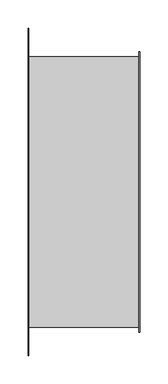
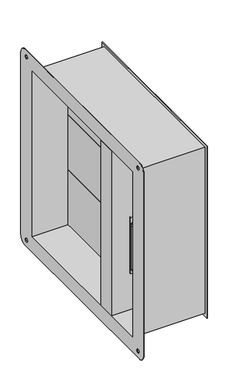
"""IFC4 building model written with IfcOpenShell, lengths in millimetres: damper geometry, СВ_КлапанПротивопожарныйЛифтовой_КДМ-2М-3-ЛС_НЗ_СтеновойПрямоугольный_СВОК : КДМ-2М_Привод FS."""

from ifc_helpers import new_model, si_unit, point, frame, frame_2d, origin, origin_2d, place, context, project, spatial, polyline, circle_curve, trimmed, segment, composite_curve, outline, extrude, source, transform, mapped, element, save
from ifc_brep_helpers import plane_surface, cylinder_surface, revolved_surface, advanced_brep


def damper_92731bf6(model_context):
    return source(origin(), model_context, "Body", "SolidModel", [
        extrude(outline(polyline([(0.6, -90.0), (-0.6, -90.0), (-0.6, 240.0), (0.6, 240.0), (0.6, -90.0)])), frame((0.0, 0.0, 80.0), z_axis=(0.0, 0.0, 1.0), x_axis=(1.0, 0.0, 0.0)), (0.0, 0.0, 1.0), 160.0),
        extrude(outline(polyline([(0.6, -90.0), (-0.6, -90.0), (-0.6, 240.0), (0.6, 240.0), (0.6, -90.0)])), frame((0.0, 0.0, -80.0), z_axis=(0.0, 0.0, 1.0), x_axis=(1.0, 0.0, 0.0)), (0.0, 0.0, 1.0), 160.0),
        extrude(outline(polyline([(0.6, -90.0), (-0.6, -90.0), (-0.6, 240.0), (0.6, 240.0), (0.6, -90.0)])), frame((0.0, 0.0, -240.0), z_axis=(0.0, 0.0, 1.0), x_axis=(1.0, 0.0, 0.0)), (0.0, 0.0, 1.0), 160.0),
        extrude(outline(polyline([(48.8298911, -140.0), (50.0298911, -140.0), (50.0298911, -145.0), (-50.0, -145.0), (-50.0, -140.0), (-48.8, -140.0), (-48.8, -143.8), (48.8298911, -143.8), (48.8298911, -140.0)])), frame((0.0, 0.0, -132.5), z_axis=(0.0, 0.0, 1.0), x_axis=(1.0, 0.0, 0.0)), (0.0, 0.0, 1.0), 162.5),
        extrude(outline(composite_curve([segment(polyline([(-116.1260091, 50.0298911), (8.1260091, 50.0298911)]), True, "CONTINUOUS"), segment(trimmed(circle_curve(frame_2d((8.1260091, 39.0)), 11.0298911), [point((8.1260091, 50.0298911))], [point((18.5819866, 42.5115572))], False, "CARTESIAN"), True, "CONTINUOUS"), segment(trimmed(circle_curve(frame_2d((-108.0, 0.0)), 133.5298911), [point((18.5819866, 42.5115572))], [point((18.5819866, -42.5115572))], False, "CARTESIAN"), True, "CONTINUOUS"), segment(trimmed(circle_curve(frame_2d((8.1260091, -39.0)), 11.0298911), [point((18.5819866, -42.5115572))], [point((8.1260091, -50.0298911))], False, "CARTESIAN"), True, "CONTINUOUS"), segment(polyline([(8.1260091, -50.0298911), (-116.1260091, -50.0298911)]), True, "CONTINUOUS"), segment(trimmed(circle_curve(frame_2d((-116.1260091, -39.0)), 11.0298911), [point((-116.1260091, -50.0298911))], [point((-126.5819866, -42.5115572))], False, "CARTESIAN"), True, "CONTINUOUS"), segment(trimmed(circle_curve(origin_2d(), 133.5298911), [point((-126.5819866, -42.5115572))], [point((-126.5819866, 42.5115572))], False, "CARTESIAN"), True, "CONTINUOUS"), segment(trimmed(circle_curve(frame_2d((-116.1260091, 39.0)), 11.0298911), [point((-126.5819866, 42.5115572))], [point((-116.1260091, 50.0298911))], False, "CARTESIAN"), True, "CONTINUOUS")], self_intersect=False), holes=[composite_curve([segment(trimmed(circle_curve(frame_2d((-108.0, 0.0)), 132.5), [point((17.6056834, -42.1836735))], [point((17.6056834, 42.1836735))], True, "CARTESIAN"), True, "CONTINUOUS"), segment(trimmed(circle_curve(frame_2d((8.1260091, 39.0)), 10.0), [point((17.6056834, 42.1836735))], [point((8.1260091, 49.0))], True, "CARTESIAN"), True, "CONTINUOUS"), segment(polyline([(8.1260091, 49.0), (-116.1260091, 49.0)]), True, "CONTINUOUS"), segment(trimmed(circle_curve(frame_2d((-116.1260091, 39.0)), 10.0), [point((-116.1260091, 49.0))], [point((-125.6056834, 42.1836735))], True, "CARTESIAN"), True, "CONTINUOUS"), segment(trimmed(circle_curve(origin_2d(), 132.5), [point((-125.6056834, 42.1836735))], [point((-125.6056834, -42.1836735))], True, "CARTESIAN"), True, "CONTINUOUS"), segment(trimmed(circle_curve(frame_2d((-116.1260091, -39.0)), 10.0), [point((-125.6056834, -42.1836735))], [point((-116.1260091, -49.0))], True, "CARTESIAN"), True, "CONTINUOUS"), segment(polyline([(-116.1260091, -49.0), (8.1260091, -49.0)]), True, "CONTINUOUS"), segment(trimmed(circle_curve(frame_2d((8.1260091, -39.0)), 10.0), [point((8.1260091, -49.0))], [point((17.6056834, -42.1836735))], True, "CARTESIAN"), True, "CONTINUOUS")], self_intersect=False)]), frame((0.0, -147.0, 0.0), z_axis=(0.0, 1.0, 0.0), x_axis=(0.0, 0.0, 1.0)), (0.0, 0.0, 1.0), 2.0),
        advanced_brep(
        [(42.1836735, -201.0, 17.6056834), (49.0, -201.0, 8.1260091), (49.0, -203.0, 8.1260091), (42.1836735, -203.0, 17.6056834), (42.5115572, -204.0, 18.5819866), (50.0298911, -204.0, 8.1260091), (50.0298911, -201.0, 8.1260091), (42.5115572, -201.0, 18.5819866), (41.5469388, -203.0, 15.7097485), (47.0, -203.0, 8.1260091), (47.0, -204.0, 8.1260091), (41.5469388, -204.0, 15.7097485), (-42.1836735, -201.0, 17.6056834), (-42.1836735, -203.0, 17.6056834), (-42.5115572, -204.0, 18.5819866), (-42.5115572, -201.0, 18.5819866), (-41.5469388, -203.0, 15.7097485), (-41.5469388, -204.0, 15.7097485), (-49.0, -201.0, 8.1260091), (-49.0, -203.0, 8.1260091), (-50.0298911, -204.0, 8.1260091), (-50.0298911, -201.0, 8.1260091), (-47.0, -203.0, 8.1260091), (-47.0, -204.0, 8.1260091), (-49.0, -203.0, -116.1260091), (-49.0, -201.0, -116.1260091), (-50.0298911, -201.0, -116.1260091), (-50.0298911, -204.0, -116.1260091), (-47.0, -204.0, -116.1260091), (-47.0, -203.0, -116.1260091), (-42.1836735, -201.0, -125.6056834), (-42.1836735, -203.0, -125.6056834), (-42.5115572, -204.0, -126.5819866), (-42.5115572, -201.0, -126.5819866), (-41.5469388, -203.0, -123.7097485), (-41.5469388, -204.0, -123.7097485), (42.1836735, -201.0, -125.6056834), (42.1836735, -203.0, -125.6056834), (42.5115572, -204.0, -126.5819866), (42.5115572, -201.0, -126.5819866), (41.5469388, -203.0, -123.7097485), (41.5469388, -204.0, -123.7097485), (49.0, -201.0, -116.1260091), (49.0, -203.0, -116.1260091), (50.0298911, -204.0, -116.1260091), (50.0298911, -201.0, -116.1260091), (47.0, -203.0, -116.1260091), (47.0, -204.0, -116.1260091)],
        [
            (0, 1, circle_curve(frame((39.0, -201.0, 8.1260091), z_axis=(0.0, 1.0, 0.0), x_axis=(1.0, 0.0, 0.0)), 10.0)),
            (1, 2),
            (2, 3, circle_curve(frame((39.0, -203.0, 8.1260091), z_axis=(0.0, -1.0, 0.0), x_axis=(1.0, 0.0, 0.0)), 10.0)),
            (3, 0),
            (4, 5, circle_curve(frame((39.0, -204.0, 8.1260091), z_axis=(0.0, 1.0, 0.0), x_axis=(1.0, 0.0, 0.0)), 11.0298911)),
            (5, 6),
            (6, 7, circle_curve(frame((39.0, -201.0, 8.1260091), z_axis=(0.0, -1.0, 0.0), x_axis=(1.0, 0.0, 0.0)), 11.0298911)),
            (7, 4),
            (8, 9, circle_curve(frame((39.0, -203.0, 8.1260091), z_axis=(0.0, 1.0, 0.0), x_axis=(1.0, 0.0, 0.0)), 8.0)),
            (9, 10),
            (10, 11, circle_curve(frame((39.0, -204.0, 8.1260091), z_axis=(0.0, -1.0, 0.0), x_axis=(1.0, 0.0, 0.0)), 8.0)),
            (11, 8),
            (12, 0, circle_curve(frame((0.0, -201.0, -108.0), z_axis=(0.0, 1.0, 0.0), x_axis=(0.31836734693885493, 0.0, 0.9479674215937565)), 132.5)),
            (3, 13, circle_curve(frame((0.0, -203.0, -108.0), z_axis=(0.0, -1.0, 0.0), x_axis=(0.31836734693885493, 0.0, 0.9479674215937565)), 132.5)),
            (13, 12),
            (14, 4, circle_curve(frame((0.0, -204.0, -108.0), z_axis=(0.0, 1.0, 0.0), x_axis=(0.31836734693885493, 0.0, 0.9479674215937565)), 133.5298911)),
            (7, 15, circle_curve(frame((0.0, -201.0, -108.0), z_axis=(0.0, -1.0, 0.0), x_axis=(0.31836734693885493, 0.0, 0.9479674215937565)), 133.5298911)),
            (15, 14),
            (16, 8, circle_curve(frame((0.0, -203.0, -108.0), z_axis=(0.0, 1.0, 0.0), x_axis=(0.31836734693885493, 0.0, 0.9479674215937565)), 130.5)),
            (11, 17, circle_curve(frame((0.0, -204.0, -108.0), z_axis=(0.0, -1.0, 0.0), x_axis=(0.31836734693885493, 0.0, 0.9479674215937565)), 130.5)),
            (17, 16),
            (18, 12, circle_curve(frame((-39.0, -201.0, 8.1260091), z_axis=(0.0, 1.0, 0.0), x_axis=(-0.31836734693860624, 0.0, 0.94796742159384)), 10.0)),
            (13, 19, circle_curve(frame((-39.0, -203.0, 8.1260091), z_axis=(0.0, -1.0, 0.0), x_axis=(-0.31836734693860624, 0.0, 0.94796742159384)), 10.0)),
            (19, 18),
            (20, 14, circle_curve(frame((-39.0, -204.0, 8.1260091), z_axis=(0.0, 1.0, 0.0), x_axis=(-0.31836734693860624, 0.0, 0.94796742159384)), 11.0298911)),
            (15, 21, circle_curve(frame((-39.0, -201.0, 8.1260091), z_axis=(0.0, -1.0, 0.0), x_axis=(-0.31836734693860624, 0.0, 0.94796742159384)), 11.0298911)),
            (21, 20),
            (22, 16, circle_curve(frame((-39.0, -203.0, 8.1260091), z_axis=(0.0, 1.0, 0.0), x_axis=(-0.31836734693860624, 0.0, 0.94796742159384)), 8.0)),
            (17, 23, circle_curve(frame((-39.0, -204.0, 8.1260091), z_axis=(0.0, -1.0, 0.0), x_axis=(-0.31836734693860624, 0.0, 0.94796742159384)), 8.0)),
            (23, 22),
            (19, 24),
            (24, 25),
            (25, 18),
            (21, 26),
            (26, 27),
            (27, 20),
            (23, 28),
            (28, 29),
            (29, 22),
            (30, 25, circle_curve(frame((-39.0, -201.0, -116.1260091), z_axis=(0.0, 1.0, 0.0), x_axis=(-1.0, 0.0, 0.0)), 10.0)),
            (24, 31, circle_curve(frame((-39.0, -203.0, -116.1260091), z_axis=(0.0, -1.0, 0.0), x_axis=(-1.0, 0.0, 0.0)), 10.0)),
            (31, 30),
            (32, 27, circle_curve(frame((-39.0, -204.0, -116.1260091), z_axis=(0.0, 1.0, 0.0), x_axis=(-1.0, 0.0, 0.0)), 11.0298911)),
            (26, 33, circle_curve(frame((-39.0, -201.0, -116.1260091), z_axis=(0.0, -1.0, 0.0), x_axis=(-1.0, 0.0, 0.0)), 11.0298911)),
            (33, 32),
            (34, 29, circle_curve(frame((-39.0, -203.0, -116.1260091), z_axis=(0.0, 1.0, 0.0), x_axis=(-1.0, 0.0, 0.0)), 8.0)),
            (28, 35, circle_curve(frame((-39.0, -204.0, -116.1260091), z_axis=(0.0, -1.0, 0.0), x_axis=(-1.0, 0.0, 0.0)), 8.0)),
            (35, 34),
            (36, 30, circle_curve(frame((0.0, -201.0, 0.0), z_axis=(0.0, 1.0, 0.0), x_axis=(-0.3183673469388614, 0.0, -0.9479674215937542)), 132.5)),
            (31, 37, circle_curve(frame((0.0, -203.0, 0.0), z_axis=(0.0, -1.0, 0.0), x_axis=(-0.3183673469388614, 0.0, -0.9479674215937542)), 132.5)),
            (37, 36),
            (38, 32, circle_curve(frame((0.0, -204.0, 0.0), z_axis=(0.0, 1.0, 0.0), x_axis=(-0.3183673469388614, 0.0, -0.9479674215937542)), 133.5298911)),
            (33, 39, circle_curve(frame((0.0, -201.0, 0.0), z_axis=(0.0, -1.0, 0.0), x_axis=(-0.3183673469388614, 0.0, -0.9479674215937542)), 133.5298911)),
            (39, 38),
            (40, 34, circle_curve(frame((0.0, -203.0, 0.0), z_axis=(0.0, 1.0, 0.0), x_axis=(-0.3183673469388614, 0.0, -0.9479674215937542)), 130.5)),
            (35, 41, circle_curve(frame((0.0, -204.0, 0.0), z_axis=(0.0, -1.0, 0.0), x_axis=(-0.3183673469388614, 0.0, -0.9479674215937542)), 130.5)),
            (41, 40),
            (42, 36, circle_curve(frame((39.0, -201.0, -116.1260091), z_axis=(0.0, 1.0, 0.0), x_axis=(0.3183673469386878, 0.0, -0.9479674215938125)), 10.0)),
            (37, 43, circle_curve(frame((39.0, -203.0, -116.1260091), z_axis=(0.0, -1.0, 0.0), x_axis=(0.3183673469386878, 0.0, -0.9479674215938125)), 10.0)),
            (43, 42),
            (44, 38, circle_curve(frame((39.0, -204.0, -116.1260091), z_axis=(0.0, 1.0, 0.0), x_axis=(0.3183673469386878, 0.0, -0.9479674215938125)), 11.0298911)),
            (39, 45, circle_curve(frame((39.0, -201.0, -116.1260091), z_axis=(0.0, -1.0, 0.0), x_axis=(0.3183673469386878, 0.0, -0.9479674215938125)), 11.0298911)),
            (45, 44),
            (46, 40, circle_curve(frame((39.0, -203.0, -116.1260091), z_axis=(0.0, 1.0, 0.0), x_axis=(0.3183673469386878, 0.0, -0.9479674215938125)), 8.0)),
            (41, 47, circle_curve(frame((39.0, -204.0, -116.1260091), z_axis=(0.0, -1.0, 0.0), x_axis=(0.3183673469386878, 0.0, -0.9479674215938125)), 8.0)),
            (47, 46),
            (2, 43),
            (46, 9),
            (1, 42),
            (6, 45),
            (5, 44),
            (10, 47),
        ],
        [
            revolved_surface(polyline([(49.0, -203.0, 8.1260091), (49.0, -201.0, 8.1260091)]), (39.0, -203.0, 8.1260091), (0.0, -1.0, 0.0)),
            cylinder_surface(frame((39.0, -203.0, 8.1260091), z_axis=(0.0, -1.0, 0.0), x_axis=(1.0, 0.0, 0.0)), 11.0298911),
            revolved_surface(polyline([(47.0, -204.0, 8.1260091), (47.0, -203.0, 8.1260091)]), (39.0, -203.0, 8.1260091), (0.0, -1.0, 0.0)),
            revolved_surface(polyline([(42.18367346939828, -203.0, 17.605683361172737), (42.18367346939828, -201.0, 17.605683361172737)]), (0.0, -203.0, -108.0), (0.0, -1.0, 0.0)),
            cylinder_surface(frame((0.0, -203.0, -108.0), z_axis=(0.0, -1.0, 0.0), x_axis=(0.31836734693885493, 0.0, 0.9479674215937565)), 133.5298911),
            revolved_surface(polyline([(41.546938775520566, -204.0, 15.709748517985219), (41.546938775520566, -203.0, 15.709748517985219)]), (0.0, -203.0, -108.0), (0.0, -1.0, 0.0)),
            revolved_surface(polyline([(-42.183673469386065, -203.0, 17.6056833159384), (-42.183673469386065, -201.0, 17.6056833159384)]), (-39.0, -203.0, 8.1260091), (0.0, -1.0, 0.0)),
            cylinder_surface(frame((-39.0, -203.0, 8.1260091), z_axis=(0.0, -1.0, 0.0), x_axis=(-0.31836734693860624, 0.0, 0.94796742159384)), 11.0298911),
            revolved_surface(polyline([(-41.54693877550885, -204.0, 15.709748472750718), (-41.54693877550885, -203.0, 15.709748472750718)]), (-39.0, -203.0, 8.1260091), (0.0, -1.0, 0.0)),
            plane_surface(frame((-49.0, -203.0, 8.1260091), z_axis=(1.0, 0.0, 0.0), x_axis=(0.0, 0.0, -1.0))),
            plane_surface(frame((-50.0298911, -201.0, 8.1260091), z_axis=(-1.0, 0.0, 0.0), x_axis=(0.0, 0.0, -1.0))),
            plane_surface(frame((-47.0, -204.0, 8.1260091), z_axis=(1.0, 0.0, 0.0), x_axis=(0.0, 0.0, -1.0))),
            revolved_surface(polyline([(-49.0, -203.0, -116.1260091), (-49.0, -201.0, -116.1260091)]), (-39.0, -203.0, -116.1260091), (0.0, -1.0, 0.0)),
            cylinder_surface(frame((-39.0, -203.0, -116.1260091), z_axis=(0.0, -1.0, 0.0), x_axis=(-1.0, 0.0, 0.0)), 11.0298911),
            revolved_surface(polyline([(-47.0, -204.0, -116.1260091), (-47.0, -203.0, -116.1260091)]), (-39.0, -203.0, -116.1260091), (0.0, -1.0, 0.0)),
            revolved_surface(polyline([(-42.18367346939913, -203.0, -125.60568336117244), (-42.18367346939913, -201.0, -125.60568336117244)]), (0.0, -203.0, 0.0), (0.0, -1.0, 0.0)),
            cylinder_surface(frame((0.0, -203.0, 0.0), z_axis=(0.0, -1.0, 0.0), x_axis=(-0.3183673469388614, 0.0, -0.9479674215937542)), 133.5298911),
            revolved_surface(polyline([(-41.54693877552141, -204.0, -123.70974851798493), (-41.54693877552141, -203.0, -123.70974851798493)]), (0.0, -203.0, 0.0), (0.0, -1.0, 0.0)),
            revolved_surface(polyline([(42.183673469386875, -203.0, -125.60568331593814), (42.183673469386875, -201.0, -125.60568331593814)]), (39.0, -203.0, -116.1260091), (0.0, -1.0, 0.0)),
            cylinder_surface(frame((39.0, -203.0, -116.1260091), z_axis=(0.0, -1.0, 0.0), x_axis=(0.3183673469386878, 0.0, -0.9479674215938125)), 11.0298911),
            revolved_surface(polyline([(41.5469387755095, -204.0, -123.7097484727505), (41.5469387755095, -203.0, -123.7097484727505)]), (39.0, -203.0, -116.1260091), (0.0, -1.0, 0.0)),
            plane_surface(frame((47.0, -203.0, -116.1260091), z_axis=(0.0, 1.0, 0.0), x_axis=(0.0, 0.0, 1.0))),
            plane_surface(frame((49.0, -203.0, -116.1260091), z_axis=(-1.0, 0.0, 0.0), x_axis=(0.0, 0.0, 1.0))),
            plane_surface(frame((49.0, -201.0, -116.1260091), z_axis=(0.0, 1.0, 0.0), x_axis=(0.0, 0.0, 1.0))),
            plane_surface(frame((50.0298911, -201.0, -116.1260091), z_axis=(1.0, 0.0, 0.0), x_axis=(0.0, 0.0, 1.0))),
            plane_surface(frame((50.0298911, -204.0, -116.1260091), z_axis=(0.0, -1.0, 0.0), x_axis=(0.0, 0.0, 1.0))),
            plane_surface(frame((47.0, -204.0, -116.1260091), z_axis=(-1.0, 0.0, 0.0), x_axis=(0.0, 0.0, 1.0))),
        ],
        [
            (0, [[1, 2, 3, 4]]),
            (1, [[5, 6, 7, 8]]),
            (2, [[9, 10, 11, 12]]),
            (3, [[13, -4, 14, 15]]),
            (4, [[16, -8, 17, 18]]),
            (5, [[19, -12, 20, 21]]),
            (6, [[22, -15, 23, 24]]),
            (7, [[25, -18, 26, 27]]),
            (8, [[28, -21, 29, 30]]),
            (9, [[-24, 31, 32, 33]]),
            (10, [[-27, 34, 35, 36]]),
            (11, [[-30, 37, 38, 39]]),
            (12, [[40, -32, 41, 42]]),
            (13, [[43, -35, 44, 45]]),
            (14, [[46, -38, 47, 48]]),
            (15, [[49, -42, 50, 51]]),
            (16, [[52, -45, 53, 54]]),
            (17, [[55, -48, 56, 57]]),
            (18, [[58, -51, 59, 60]]),
            (19, [[61, -54, 62, 63]]),
            (20, [[64, -57, 65, 66]]),
            (21, [[67, -59, -50, -41, -31, -23, -14, -3], [-55, -64, 68, -9, -19, -28, -39, -46]]),
            (22, [[-60, -67, -2, 69]]),
            (23, [[70, -62, -53, -44, -34, -26, -17, -7], [-49, -58, -69, -1, -13, -22, -33, -40]]),
            (24, [[-63, -70, -6, 71]]),
            (25, [[-52, -61, -71, -5, -16, -25, -36, -43], [72, -65, -56, -47, -37, -29, -20, -11]]),
            (26, [[-66, -72, -10, -68]]),
        ],
    ),
        advanced_brep(
        [(15.0, -174.0, -132.5), (35.0, -174.0, -132.5), (36.9771465, -174.0, -132.5), (13.0228535, -174.0, -132.5), (36.9771465, -174.0, -135.4915282), (13.0228535, -174.0, -135.4915282), (32.9771465, -174.0, -135.4915282), (17.0228535, -174.0, -135.4915282), (32.9771465, -174.0, -137.4754985), (17.0228535, -174.0, -137.4754985), (37.9771465, -174.0, -137.4754985), (12.0228535, -174.0, -137.4754985), (37.9771465, -174.0, -147.4754985), (12.0228535, -174.0, -147.4754985), (34.4416126, -174.0, -151.0110324), (15.5583874, -174.0, -151.0110324), (25.0, -174.0, -151.0110324), (25.0, -174.0, -120.900028), (35.0, -174.0, -120.900028), (15.0, -174.0, -120.900028)],
        [
            (0, 1, circle_curve(frame((25.0, -174.0, -132.5), z_axis=(0.0, 0.0, -1.0), x_axis=(1.0, 0.0, 0.0)), 10.0)),
            (1, 2),
            (2, 3, circle_curve(frame((25.0, -174.0, -132.5), z_axis=(0.0, 0.0, 1.0), x_axis=(1.0, 0.0, 0.0)), 11.9771465)),
            (3, 0),
            (1, 0, circle_curve(frame((25.0, -174.0, -132.5), z_axis=(0.0, 0.0, -1.0), x_axis=(1.0, 0.0, 0.0)), 10.0)),
            (3, 2, circle_curve(frame((25.0, -174.0, -132.5), z_axis=(0.0, 0.0, 1.0), x_axis=(1.0, 0.0, 0.0)), 11.9771465)),
            (2, 4),
            (4, 5, circle_curve(frame((25.0, -174.0, -135.4915282), z_axis=(0.0, 0.0, 1.0), x_axis=(1.0, 0.0, 0.0)), 11.9771465)),
            (5, 3),
            (5, 4, circle_curve(frame((25.0, -174.0, -135.4915282), z_axis=(0.0, 0.0, 1.0), x_axis=(1.0, 0.0, 0.0)), 11.9771465)),
            (4, 6),
            (6, 7, circle_curve(frame((25.0, -174.0, -135.4915282), z_axis=(0.0, 0.0, 1.0), x_axis=(1.0, 0.0, 0.0)), 7.9771465)),
            (7, 5),
            (7, 6, circle_curve(frame((25.0, -174.0, -135.4915282), z_axis=(0.0, 0.0, 1.0), x_axis=(1.0, 0.0, 0.0)), 7.9771465)),
            (6, 8),
            (8, 9, circle_curve(frame((25.0, -174.0, -137.4754985), z_axis=(0.0, 0.0, 1.0), x_axis=(1.0, 0.0, 0.0)), 7.9771465)),
            (9, 7),
            (9, 8, circle_curve(frame((25.0, -174.0, -137.4754985), z_axis=(0.0, 0.0, 1.0), x_axis=(1.0, 0.0, 0.0)), 7.9771465)),
            (8, 10),
            (10, 11, circle_curve(frame((25.0, -174.0, -137.4754985), z_axis=(0.0, 0.0, 1.0), x_axis=(1.0, 0.0, 0.0)), 12.9771465)),
            (11, 9),
            (11, 10, circle_curve(frame((25.0, -174.0, -137.4754985), z_axis=(0.0, 0.0, 1.0), x_axis=(1.0, 0.0, 0.0)), 12.9771465)),
            (10, 12),
            (12, 13, circle_curve(frame((25.0, -174.0, -147.4754985), z_axis=(0.0, 0.0, 1.0), x_axis=(1.0, 0.0, 0.0)), 12.9771465)),
            (13, 11),
            (13, 12, circle_curve(frame((25.0, -174.0, -147.4754985), z_axis=(0.0, 0.0, 1.0), x_axis=(1.0, 0.0, 0.0)), 12.9771465)),
            (12, 14),
            (14, 15, circle_curve(frame((25.0, -174.0, -151.0110324), z_axis=(0.0, 0.0, 1.0), x_axis=(1.0, 0.0, 0.0)), 9.4416126)),
            (15, 13),
            (15, 14, circle_curve(frame((25.0, -174.0, -151.0110324), z_axis=(0.0, 0.0, 1.0), x_axis=(1.0, 0.0, 0.0)), 9.4416126)),
            (14, 16),
            (16, 15),
            (17, 18),
            (18, 19, circle_curve(frame((25.0, -174.0, -120.900028), z_axis=(0.0, 0.0, 1.0), x_axis=(1.0, 0.0, 0.0)), 10.0)),
            (19, 17),
            (19, 18, circle_curve(frame((25.0, -174.0, -120.900028), z_axis=(0.0, 0.0, 1.0), x_axis=(1.0, 0.0, 0.0)), 10.0)),
            (18, 1),
            (0, 19),
        ],
        [
            plane_surface(frame((25.0, -174.0, -132.5), z_axis=(0.0, 0.0, 1.0), x_axis=(1.0, 0.0, 0.0))),
            cylinder_surface(frame((25.0, -174.0, -461.314844), z_axis=(0.0, 0.0, 1.0), x_axis=(1.0, 0.0, 0.0)), 11.9771465),
            plane_surface(frame((25.0, -174.0, -135.4915282), z_axis=(0.0, 0.0, -1.0), x_axis=(1.0, 0.0, 0.0))),
            cylinder_surface(frame((25.0, -174.0, -461.314844), z_axis=(0.0, 0.0, 1.0), x_axis=(1.0, 0.0, 0.0)), 7.9771465),
            plane_surface(frame((25.0, -174.0, -137.4754985), z_axis=(0.0, 0.0, 1.0), x_axis=(1.0, 0.0, 0.0))),
            cylinder_surface(frame((25.0, -174.0, -461.314844), z_axis=(0.0, 0.0, 1.0), x_axis=(1.0, 0.0, 0.0)), 12.9771465),
            revolved_surface(polyline([(34.4416126, -174.0, -151.0110324), (37.9771465, -174.0, -147.4754985)]), (25.0, -174.0, -461.314844), (0.0, 0.0, 1.0)),
            plane_surface(frame((25.0, -174.0, -151.0110324), z_axis=(0.0, 0.0, -1.0), x_axis=(1.0, 0.0, 0.0))),
            plane_surface(frame((25.0, -174.0, -120.900028), z_axis=(0.0, 0.0, 1.0), x_axis=(1.0, 0.0, 0.0))),
            cylinder_surface(frame((25.0, -174.0, -461.314844), z_axis=(0.0, 0.0, 1.0), x_axis=(1.0, 0.0, 0.0)), 10.0),
        ],
        [
            (0, [[1, 2, 3, 4]]),
            (0, [[5, -4, 6, -2]]),
            (1, [[-3, 7, 8, 9]]),
            (1, [[-6, -9, 10, -7]]),
            (2, [[-8, 11, 12, 13]]),
            (2, [[-10, -13, 14, -11]]),
            (3, [[-12, 15, 16, 17]]),
            (3, [[-14, -17, 18, -15]]),
            (4, [[-16, 19, 20, 21]]),
            (4, [[-18, -21, 22, -19]]),
            (5, [[-20, 23, 24, 25]]),
            (5, [[-22, -25, 26, -23]]),
            (6, [[-24, 27, 28, 29]]),
            (6, [[-26, -29, 30, -27]]),
            (7, [[-28, 31, 32]]),
            (7, [[-30, -32, -31]]),
            (8, [[33, 34, 35]]),
            (8, [[-35, 36, -33]]),
            (9, [[-34, 37, -1, 38]]),
            (9, [[-36, -38, -5, -37]]),
        ],
    ),
        advanced_brep(
        [(-13.0228535, -174.0, -132.5), (-36.9771465, -174.0, -132.5), (-35.0, -174.0, -132.5), (-15.0, -174.0, -132.5), (-13.0228535, -174.0, -135.4915282), (-36.9771465, -174.0, -135.4915282), (-17.0228535, -174.0, -135.4915282), (-32.9771465, -174.0, -135.4915282), (-17.0228535, -174.0, -137.4754985), (-32.9771465, -174.0, -137.4754985), (-12.0228535, -174.0, -137.4754985), (-37.9771465, -174.0, -137.4754985), (-12.0228535, -174.0, -147.4754985), (-37.9771465, -174.0, -147.4754985), (-15.5583874, -174.0, -151.0110324), (-34.4416126, -174.0, -151.0110324), (-25.0, -174.0, -151.0110324), (-15.0, -174.0, -120.900028), (-35.0, -174.0, -120.900028), (-25.0, -174.0, -120.900028)],
        [
            (0, 1, circle_curve(frame((-25.0, -174.0, -132.5), z_axis=(0.0, 0.0, 1.0), x_axis=(-1.0, 0.0, 0.0)), 11.9771465)),
            (1, 2),
            (2, 3, circle_curve(frame((-25.0, -174.0, -132.5), z_axis=(0.0, 0.0, -1.0), x_axis=(-1.0, 0.0, 0.0)), 10.0)),
            (3, 0),
            (1, 0, circle_curve(frame((-25.0, -174.0, -132.5), z_axis=(0.0, 0.0, 1.0), x_axis=(-1.0, 0.0, 0.0)), 11.9771465)),
            (3, 2, circle_curve(frame((-25.0, -174.0, -132.5), z_axis=(0.0, 0.0, -1.0), x_axis=(-1.0, 0.0, 0.0)), 10.0)),
            (4, 5, circle_curve(frame((-25.0, -174.0, -135.4915282), z_axis=(0.0, 0.0, 1.0), x_axis=(-1.0, 0.0, 0.0)), 11.9771465)),
            (5, 1),
            (0, 4),
            (5, 4, circle_curve(frame((-25.0, -174.0, -135.4915282), z_axis=(0.0, 0.0, 1.0), x_axis=(-1.0, 0.0, 0.0)), 11.9771465)),
            (6, 7, circle_curve(frame((-25.0, -174.0, -135.4915282), z_axis=(0.0, 0.0, 1.0), x_axis=(-1.0, 0.0, 0.0)), 7.9771465)),
            (7, 5),
            (4, 6),
            (7, 6, circle_curve(frame((-25.0, -174.0, -135.4915282), z_axis=(0.0, 0.0, 1.0), x_axis=(-1.0, 0.0, 0.0)), 7.9771465)),
            (8, 9, circle_curve(frame((-25.0, -174.0, -137.4754985), z_axis=(0.0, 0.0, 1.0), x_axis=(-1.0, 0.0, 0.0)), 7.9771465)),
            (9, 7),
            (6, 8),
            (9, 8, circle_curve(frame((-25.0, -174.0, -137.4754985), z_axis=(0.0, 0.0, 1.0), x_axis=(-1.0, 0.0, 0.0)), 7.9771465)),
            (10, 11, circle_curve(frame((-25.0, -174.0, -137.4754985), z_axis=(0.0, 0.0, 1.0), x_axis=(-1.0, 0.0, 0.0)), 12.9771465)),
            (11, 9),
            (8, 10),
            (11, 10, circle_curve(frame((-25.0, -174.0, -137.4754985), z_axis=(0.0, 0.0, 1.0), x_axis=(-1.0, 0.0, 0.0)), 12.9771465)),
            (12, 13, circle_curve(frame((-25.0, -174.0, -147.4754985), z_axis=(0.0, 0.0, 1.0), x_axis=(-1.0, 0.0, 0.0)), 12.9771465)),
            (13, 11),
            (10, 12),
            (13, 12, circle_curve(frame((-25.0, -174.0, -147.4754985), z_axis=(0.0, 0.0, 1.0), x_axis=(-1.0, 0.0, 0.0)), 12.9771465)),
            (14, 15, circle_curve(frame((-25.0, -174.0, -151.0110324), z_axis=(0.0, 0.0, 1.0), x_axis=(-1.0, 0.0, 0.0)), 9.4416126)),
            (15, 13),
            (12, 14),
            (15, 14, circle_curve(frame((-25.0, -174.0, -151.0110324), z_axis=(0.0, 0.0, 1.0), x_axis=(-1.0, 0.0, 0.0)), 9.4416126)),
            (16, 15),
            (14, 16),
            (17, 18, circle_curve(frame((-25.0, -174.0, -120.900028), z_axis=(0.0, 0.0, 1.0), x_axis=(-1.0, 0.0, 0.0)), 10.0)),
            (18, 19),
            (19, 17),
            (18, 17, circle_curve(frame((-25.0, -174.0, -120.900028), z_axis=(0.0, 0.0, 1.0), x_axis=(-1.0, 0.0, 0.0)), 10.0)),
            (2, 18),
            (17, 3),
        ],
        [
            plane_surface(frame((-25.0, -174.0, -132.5), z_axis=(0.0, 0.0, 1.0), x_axis=(-1.0, 0.0, 0.0))),
            cylinder_surface(frame((-25.0, -174.0, -461.314844), z_axis=(0.0, 0.0, -1.0), x_axis=(-1.0, 0.0, 0.0)), 11.9771465),
            plane_surface(frame((-25.0, -174.0, -135.4915282), z_axis=(0.0, 0.0, -1.0), x_axis=(-1.0, 0.0, 0.0))),
            cylinder_surface(frame((-25.0, -174.0, -461.314844), z_axis=(0.0, 0.0, -1.0), x_axis=(-1.0, 0.0, 0.0)), 7.9771465),
            plane_surface(frame((-25.0, -174.0, -137.4754985), z_axis=(0.0, 0.0, 1.0), x_axis=(-1.0, 0.0, 0.0))),
            cylinder_surface(frame((-25.0, -174.0, -461.314844), z_axis=(0.0, 0.0, -1.0), x_axis=(-1.0, 0.0, 0.0)), 12.9771465),
            revolved_surface(polyline([(-37.9771465, -174.0, -147.4754985), (-34.4416126, -174.0, -151.0110324)]), (-25.0, -174.0, -461.314844), (0.0, 0.0, -1.0)),
            plane_surface(frame((-25.0, -174.0, -151.0110324), z_axis=(0.0, 0.0, -1.0), x_axis=(-1.0, 0.0, 0.0))),
            plane_surface(frame((-25.0, -174.0, -120.900028), z_axis=(0.0, 0.0, 1.0), x_axis=(-1.0, 0.0, 0.0))),
            cylinder_surface(frame((-25.0, -174.0, -461.314844), z_axis=(0.0, 0.0, -1.0), x_axis=(-1.0, 0.0, 0.0)), 10.0),
        ],
        [
            (0, [[1, 2, 3, 4]]),
            (0, [[5, -4, 6, -2]]),
            (1, [[7, 8, -1, 9]]),
            (1, [[10, -9, -5, -8]]),
            (2, [[11, 12, -7, 13]]),
            (2, [[14, -13, -10, -12]]),
            (3, [[15, 16, -11, 17]]),
            (3, [[18, -17, -14, -16]]),
            (4, [[19, 20, -15, 21]]),
            (4, [[22, -21, -18, -20]]),
            (5, [[23, 24, -19, 25]]),
            (5, [[26, -25, -22, -24]]),
            (6, [[27, 28, -23, 29]]),
            (6, [[30, -29, -26, -28]]),
            (7, [[31, -27, 32]]),
            (7, [[-32, -30, -31]]),
            (8, [[33, 34, 35]]),
            (8, [[36, -35, -34]]),
            (9, [[-3, 37, -33, 38]]),
            (9, [[-6, -38, -36, -37]]),
        ],
    ),
        extrude(outline(polyline([(-5.1832695, -2.9925621), (-5.1832695, 2.9925621), (0.0, 5.9851241), (5.1832695, 2.9925621), (5.1832695, -2.9925621), (0.0, -5.9851241), (-5.1832695, -2.9925621)])), frame((0.0, -203.0, 0.0), z_axis=(0.0, 1.0, 0.0), x_axis=(0.0, 0.0, 1.0)), (0.0, 0.0, 1.0), 63.0),
        advanced_brep(
        [(42.1836735, -203.0, -125.6056834), (49.0, -203.0, -116.1260091), (49.0, -203.0, 8.1260091), (42.1836735, -203.0, 17.6056834), (-42.1836735, -203.0, 17.6056834), (-49.0, -203.0, 8.1260091), (-49.0, -203.0, -116.1260091), (-42.1836735, -203.0, -125.6056834), (0.0, -203.0, -19.0), (0.0, -203.0, 19.0), (0.0, -203.0, -18.0), (0.0, -203.0, 18.0), (0.0, -203.0, -15.0), (0.0, -203.0, 15.0), (0.0, -203.0, -14.0), (0.0, -203.0, 14.0), (5.9954463, -203.0, 5.9954463), (5.9954463, -203.0, 2.4898351), (8.4852814, -203.0, 0.0), (5.9954463, -203.0, -2.4898351), (5.9954463, -203.0, -5.9954463), (2.4898351, -203.0, -5.9954463), (0.0, -203.0, -8.4852814), (-2.4898351, -203.0, -5.9954463), (-5.9954463, -203.0, -5.9954463), (-5.9954463, -203.0, -2.4898351), (-8.4852814, -203.0, 0.0), (-5.9954463, -203.0, 2.4898351), (-5.9954463, -203.0, 5.9954463), (-2.4898351, -203.0, 5.9954463), (0.0, -203.0, 8.4852814), (2.4898351, -203.0, 5.9954463), (42.1836735, -145.0, -125.6056834), (-42.1836735, -145.0, -125.6056834), (-49.0, -145.0, -116.1260091), (-49.0, -145.0, 8.1260091), (-42.1836735, -145.0, 17.6056834), (42.1836735, -145.0, 17.6056834), (49.0, -145.0, 8.1260091), (49.0, -145.0, -116.1260091), (0.0, -198.0, 19.0), (0.0, -198.0, -19.0), (0.0, -198.0, 18.0), (0.0, -198.0, -18.0), (0.0, -198.0, 15.0), (0.0, -198.0, -15.0), (0.0, -198.0, 14.0), (0.0, -198.0, -14.0), (5.9954463, -198.0, 2.4898351), (5.9954463, -198.0, 5.9954463), (2.4898351, -198.0, 5.9954463), (0.0, -198.0, 8.4852814), (-2.4898351, -198.0, 5.9954463), (-5.9954463, -198.0, 5.9954463), (-5.9954463, -198.0, 2.4898351), (-8.4852814, -198.0, 0.0), (-5.9954463, -198.0, -2.4898351), (-5.9954463, -198.0, -5.9954463), (-2.4898351, -198.0, -5.9954463), (0.0, -198.0, -8.4852814), (2.4898351, -198.0, -5.9954463), (5.9954463, -198.0, -5.9954463), (5.9954463, -198.0, -2.4898351), (8.4852814, -198.0, 0.0)],
        [
            (0, 1, circle_curve(frame((39.0, -203.0, -116.1260091), z_axis=(0.0, -1.0, 0.0), x_axis=(0.0, 0.0, -1.0)), 10.0)),
            (1, 2),
            (2, 3, circle_curve(frame((39.0, -203.0, 8.1260091), z_axis=(0.0, -1.0, 0.0), x_axis=(0.0, 0.0, -1.0)), 10.0)),
            (3, 4, circle_curve(frame((0.0, -203.0, -108.0), z_axis=(0.0, -1.0, 0.0), x_axis=(0.0, 0.0, -1.0)), 132.5)),
            (4, 5, circle_curve(frame((-39.0, -203.0, 8.1260091), z_axis=(0.0, -1.0, 0.0), x_axis=(0.0, 0.0, -1.0)), 10.0)),
            (5, 6),
            (6, 7, circle_curve(frame((-39.0, -203.0, -116.1260091), z_axis=(0.0, -1.0, 0.0), x_axis=(0.0, 0.0, -1.0)), 10.0)),
            (7, 0, circle_curve(frame((0.0, -203.0, 0.0), z_axis=(0.0, -1.0, 0.0), x_axis=(0.0, 0.0, -1.0)), 132.5)),
            (8, 9, circle_curve(frame((0.0, -203.0, 0.0), z_axis=(0.0, 1.0, 0.0), x_axis=(0.0, 0.0, -1.0)), 19.0)),
            (9, 8, circle_curve(frame((0.0, -203.0, 0.0), z_axis=(0.0, 1.0, 0.0), x_axis=(0.0, 0.0, -1.0)), 19.0)),
            (10, 11, circle_curve(frame((0.0, -203.0, 0.0), z_axis=(0.0, -1.0, 0.0), x_axis=(0.0, 0.0, -1.0)), 18.0)),
            (11, 10, circle_curve(frame((0.0, -203.0, 0.0), z_axis=(0.0, -1.0, 0.0), x_axis=(0.0, 0.0, -1.0)), 18.0)),
            (12, 13, circle_curve(frame((0.0, -203.0, 0.0), z_axis=(0.0, 1.0, 0.0), x_axis=(0.0, 0.0, -1.0)), 15.0)),
            (13, 12, circle_curve(frame((0.0, -203.0, 0.0), z_axis=(0.0, 1.0, 0.0), x_axis=(0.0, 0.0, -1.0)), 15.0)),
            (14, 15, circle_curve(frame((0.0, -203.0, 0.0), z_axis=(0.0, -1.0, 0.0), x_axis=(0.0, 0.0, -1.0)), 14.0)),
            (15, 14, circle_curve(frame((0.0, -203.0, 0.0), z_axis=(0.0, -1.0, 0.0), x_axis=(0.0, 0.0, -1.0)), 14.0)),
            (16, 17),
            (17, 18),
            (18, 19),
            (19, 20),
            (20, 21),
            (21, 22),
            (22, 23),
            (23, 24),
            (24, 25),
            (25, 26),
            (26, 27),
            (27, 28),
            (28, 29),
            (29, 30),
            (30, 31),
            (31, 16),
            (32, 33, circle_curve(frame((0.0, -145.0, 0.0), z_axis=(0.0, 1.0, 0.0), x_axis=(0.0, 0.0, -1.0)), 132.5)),
            (33, 34, circle_curve(frame((-39.0, -145.0, -116.1260091), z_axis=(0.0, 1.0, 0.0), x_axis=(0.0, 0.0, -1.0)), 10.0)),
            (34, 35),
            (35, 36, circle_curve(frame((-39.0, -145.0, 8.1260091), z_axis=(0.0, 1.0, 0.0), x_axis=(0.0, 0.0, -1.0)), 10.0)),
            (36, 37, circle_curve(frame((0.0, -145.0, -108.0), z_axis=(0.0, 1.0, 0.0), x_axis=(0.0, 0.0, -1.0)), 132.5)),
            (37, 38, circle_curve(frame((39.0, -145.0, 8.1260091), z_axis=(0.0, 1.0, 0.0), x_axis=(0.0, 0.0, -1.0)), 10.0)),
            (38, 39),
            (39, 32, circle_curve(frame((39.0, -145.0, -116.1260091), z_axis=(0.0, 1.0, 0.0), x_axis=(0.0, 0.0, -1.0)), 10.0)),
            (0, 32),
            (39, 1),
            (38, 2),
            (37, 3),
            (36, 4),
            (35, 5),
            (34, 6),
            (33, 7),
            (40, 41, circle_curve(frame((0.0, -198.0, 0.0), z_axis=(0.0, -1.0, 0.0), x_axis=(0.0, 0.0, -1.0)), 19.0)),
            (41, 40, circle_curve(frame((0.0, -198.0, 0.0), z_axis=(0.0, -1.0, 0.0), x_axis=(0.0, 0.0, -1.0)), 19.0)),
            (42, 43, circle_curve(frame((0.0, -198.0, 0.0), z_axis=(0.0, 1.0, 0.0), x_axis=(0.0, 0.0, -1.0)), 18.0)),
            (43, 42, circle_curve(frame((0.0, -198.0, 0.0), z_axis=(0.0, 1.0, 0.0), x_axis=(0.0, 0.0, -1.0)), 18.0)),
            (44, 45, circle_curve(frame((0.0, -198.0, 0.0), z_axis=(0.0, -1.0, 0.0), x_axis=(0.0, 0.0, -1.0)), 15.0)),
            (45, 44, circle_curve(frame((0.0, -198.0, 0.0), z_axis=(0.0, -1.0, 0.0), x_axis=(0.0, 0.0, -1.0)), 15.0)),
            (46, 47, circle_curve(frame((0.0, -198.0, 0.0), z_axis=(0.0, 1.0, 0.0), x_axis=(0.0, 0.0, -1.0)), 14.0)),
            (47, 46, circle_curve(frame((0.0, -198.0, 0.0), z_axis=(0.0, 1.0, 0.0), x_axis=(0.0, 0.0, -1.0)), 14.0)),
            (48, 49),
            (49, 50),
            (50, 51),
            (51, 52),
            (52, 53),
            (53, 54),
            (54, 55),
            (55, 56),
            (56, 57),
            (57, 58),
            (58, 59),
            (59, 60),
            (60, 61),
            (61, 62),
            (62, 63),
            (63, 48),
            (40, 9),
            (8, 41),
            (42, 11),
            (10, 43),
            (44, 13),
            (12, 45),
            (46, 15),
            (14, 47),
            (48, 17),
            (16, 49),
            (31, 50),
            (30, 51),
            (29, 52),
            (28, 53),
            (27, 54),
            (26, 55),
            (25, 56),
            (24, 57),
            (23, 58),
            (22, 59),
            (21, 60),
            (20, 61),
            (19, 62),
            (18, 63),
        ],
        [
            plane_surface(frame((39.0, -203.0, -126.1260091), z_axis=(0.0, -1.0, 0.0), x_axis=(1.0, 0.0, 0.0))),
            plane_surface(frame((39.0, -145.0, -126.1260091), z_axis=(0.0, 1.0, 0.0), x_axis=(-1.0, 0.0, 0.0))),
            cylinder_surface(frame((39.0, -145.0, -116.1260091), z_axis=(0.0, -1.0, 0.0), x_axis=(0.0, 0.0, -1.0)), 10.0),
            plane_surface(frame((49.0, -203.0, -116.1260091), z_axis=(1.0, 0.0, 0.0), x_axis=(0.0, 1.0, 0.0))),
            cylinder_surface(frame((39.0, -145.0, 8.1260091), z_axis=(0.0, -1.0, 0.0), x_axis=(0.0, 0.0, -1.0)), 10.0),
            cylinder_surface(frame((0.0, -145.0, -108.0), z_axis=(0.0, -1.0, 0.0), x_axis=(0.0, 0.0, -1.0)), 132.5),
            cylinder_surface(frame((-39.0, -145.0, 8.1260091), z_axis=(0.0, -1.0, 0.0), x_axis=(0.0, 0.0, -1.0)), 10.0),
            plane_surface(frame((-49.0, -203.0, 8.1260091), z_axis=(-1.0, 0.0, 0.0), x_axis=(0.0, 1.0, 0.0))),
            cylinder_surface(frame((-39.0, -145.0, -116.1260091), z_axis=(0.0, -1.0, 0.0), x_axis=(0.0, 0.0, -1.0)), 10.0),
            cylinder_surface(frame((0.0, -145.0, 0.0), z_axis=(0.0, -1.0, 0.0), x_axis=(0.0, 0.0, -1.0)), 132.5),
            plane_surface(frame((0.0, -198.0, -19.0), z_axis=(0.0, -1.0, 0.0), x_axis=(-1.0, 0.0, 0.0))),
            revolved_surface(polyline([(0.0, -203.0, -19.0), (0.0, -198.0, -19.0)]), (0.0, -198.0, 0.0), (0.0, -1.0, 0.0)),
            cylinder_surface(frame((0.0, -140.0, 0.0), z_axis=(0.0, 1.0, 0.0), x_axis=(0.0, 0.0, -1.0)), 18.0),
            revolved_surface(polyline([(0.0, -203.0, -15.0), (0.0, -198.0, -15.0)]), (0.0, -140.0, 0.0), (0.0, -1.0, 0.0)),
            cylinder_surface(frame((0.0, -140.0, 0.0), z_axis=(0.0, 1.0, 0.0), x_axis=(0.0, 0.0, -1.0)), 14.0),
            plane_surface(frame((5.9954463, -203.0, 2.4898351), z_axis=(-1.0, 0.0, 0.0), x_axis=(0.0, 1.0, 0.0))),
            plane_surface(frame((5.9954463, -203.0, 5.9954463), z_axis=(0.0, 0.0, -1.0), x_axis=(0.0, 1.0, 0.0))),
            plane_surface(frame((2.4898351, -203.0, 5.9954463), z_axis=(-0.7071067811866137, 0.0, -0.7071067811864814), x_axis=(0.0, 1.0, 0.0))),
            plane_surface(frame((0.0, -203.0, 8.4852814), z_axis=(0.7071067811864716, 0.0, -0.7071067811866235), x_axis=(0.0, 1.0, 0.0))),
            plane_surface(frame((-2.4898351, -203.0, 5.9954463), z_axis=(0.0, 0.0, -1.0), x_axis=(0.0, 1.0, 0.0))),
            plane_surface(frame((-5.9954463, -203.0, 5.9954463), z_axis=(1.0, 0.0, 0.0), x_axis=(0.0, 1.0, 0.0))),
            plane_surface(frame((-5.9954463, -203.0, 2.4898351), z_axis=(0.7071067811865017, 0.0, -0.7071067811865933), x_axis=(0.0, 1.0, 0.0))),
            plane_surface(frame((-8.4852814, -203.0, 0.0), z_axis=(0.7071067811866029, 0.0, 0.7071067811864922), x_axis=(0.0, 1.0, 0.0))),
            plane_surface(frame((-5.9954463, -203.0, -2.4898351), z_axis=(1.0, 0.0, 0.0), x_axis=(0.0, 1.0, 0.0))),
            plane_surface(frame((-5.9954463, -203.0, -5.9954463), z_axis=(0.0, 0.0, 1.0), x_axis=(0.0, 1.0, 0.0))),
            plane_surface(frame((-2.4898351, -203.0, -5.9954463), z_axis=(0.7071067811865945, 0.0, 0.7071067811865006), x_axis=(0.0, 1.0, 0.0))),
            plane_surface(frame((0.0, -203.0, -8.4852814), z_axis=(-0.707106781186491, 0.0, 0.7071067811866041), x_axis=(0.0, 1.0, 0.0))),
            plane_surface(frame((2.4898351, -203.0, -5.9954463), z_axis=(0.0, 0.0, 1.0), x_axis=(0.0, 1.0, 0.0))),
            plane_surface(frame((5.9954463, -203.0, -5.9954463), z_axis=(-1.0, 0.0, 0.0), x_axis=(0.0, 1.0, 0.0))),
            plane_surface(frame((5.9954463, -203.0, -2.4898351), z_axis=(-0.7071067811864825, 0.0, 0.7071067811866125), x_axis=(0.0, 1.0, 0.0))),
            plane_surface(frame((8.4852814, -203.0, 0.0), z_axis=(-0.7071067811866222, 0.0, -0.707106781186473), x_axis=(0.0, 1.0, 0.0))),
        ],
        [
            (0, [[1, 2, 3, 4, 5, 6, 7, 8], [9, 10]]),
            (0, [[11, 12], [13, 14]]),
            (0, [[15, 16], [17, 18, 19, 20, 21, 22, 23, 24, 25, 26, 27, 28, 29, 30, 31, 32]]),
            (1, [[33, 34, 35, 36, 37, 38, 39, 40]]),
            (2, [[-1, 41, -40, 42]]),
            (3, [[-2, -42, -39, 43]]),
            (4, [[-3, -43, -38, 44]]),
            (5, [[-4, -44, -37, 45]]),
            (6, [[-5, -45, -36, 46]]),
            (7, [[-6, -46, -35, 47]]),
            (8, [[-7, -47, -34, 48]]),
            (9, [[-8, -48, -33, -41]]),
            (10, [[49, 50], [51, 52]]),
            (10, [[53, 54], [55, 56]]),
            (10, [[57, 58, 59, 60, 61, 62, 63, 64, 65, 66, 67, 68, 69, 70, 71, 72]]),
            (11, [[-49, 73, -9, 74]]),
            (11, [[-50, -74, -10, -73]]),
            (12, [[-51, 75, -11, 76]]),
            (12, [[-52, -76, -12, -75]]),
            (13, [[-53, 77, -13, 78]]),
            (13, [[-54, -78, -14, -77]]),
            (14, [[-55, 79, -15, 80]]),
            (14, [[-56, -80, -16, -79]]),
            (15, [[-57, 81, -17, 82]]),
            (16, [[-58, -82, -32, 83]]),
            (17, [[-59, -83, -31, 84]]),
            (18, [[-60, -84, -30, 85]]),
            (19, [[-61, -85, -29, 86]]),
            (20, [[-62, -86, -28, 87]]),
            (21, [[-63, -87, -27, 88]]),
            (22, [[-64, -88, -26, 89]]),
            (23, [[-65, -89, -25, 90]]),
            (24, [[-66, -90, -24, 91]]),
            (25, [[-67, -91, -23, 92]]),
            (26, [[-68, -92, -22, 93]]),
            (27, [[-69, -93, -21, 94]]),
            (28, [[-70, -94, -20, 95]]),
            (29, [[-71, -95, -19, 96]]),
            (30, [[-72, -96, -18, -81]]),
        ],
    ),
        extrude(outline(polyline([(100.0, -90.0), (100.0, -140.0), (-100.0, -140.0), (-100.0, -90.0), (100.0, -90.0)])), frame((0.0, 0.0, -240.0), z_axis=(0.0, 0.0, 1.0), x_axis=(1.0, 0.0, 0.0)), (0.0, 0.0, 1.0), 480.0),
        advanced_brep(
        [(-100.0, -272.5, 285.0), (-100.0, 272.5, 285.0), (-100.0, 292.5, 265.0), (-100.0, 292.5, -265.0), (-100.0, 272.5, -285.0), (-100.0, -272.5, -285.0), (-100.0, -292.5, -265.0), (-100.0, -292.5, 265.0), (-100.0, -240.0, 240.0), (-100.0, -240.0, -240.0), (-100.0, 240.0, -240.0), (-100.0, 240.0, 240.0), (-100.0, 261.25, 266.25), (-100.0, 271.25, 266.25), (-100.0, -271.25, 266.25), (-100.0, -261.25, 266.25), (-100.0, -271.25, -266.25), (-100.0, -261.25, -266.25), (-100.0, 261.25, -266.25), (-100.0, 271.25, -266.25), (-98.8, -272.5, 285.0), (-98.8, -292.5, 265.0), (-98.8, -292.5, -265.0), (-98.8, -272.5, -285.0), (-98.8, 272.5, -285.0), (-98.8, 292.5, -265.0), (-98.8, 292.5, 265.0), (-98.8, 272.5, 285.0), (-98.8, -241.2, 241.2), (-98.8, 241.2, 241.2), (-98.8, 241.2, -241.2), (-98.8, -241.2, -241.2), (-98.8, 271.25, 266.25), (-98.8, 261.25, 266.25), (-98.8, -261.25, 266.25), (-98.8, -271.25, 266.25), (-98.8, -261.25, -266.25), (-98.8, -271.25, -266.25), (-98.8, 271.25, -266.25), (-98.8, 261.25, -266.25), (100.0, -250.0, 250.0), (100.0, -250.0, -250.0), (100.0, 250.0, -250.0), (100.0, 250.0, 250.0), (100.0, -240.0, 240.0), (100.0, 240.0, 240.0), (100.0, 240.0, -240.0), (100.0, -240.0, -240.0), (98.8, -241.2, 241.2), (98.8, 241.2, 241.2), (98.8, -241.2, -241.2), (98.8, 241.2, -241.2), (98.8, 240.0, 240.0), (98.8, -240.0, 240.0), (98.8, -140.0, 240.0), (97.6, -140.0, 240.0), (97.6, -240.0, 240.0), (98.8, 240.0, -240.0), (97.6, -240.0, -240.0), (97.6, -140.0, -240.0), (98.8, -140.0, -240.0), (98.8, -240.0, -240.0), (98.8, -250.0, 250.0), (98.8, 250.0, 250.0), (98.8, 250.0, -250.0), (98.8, -250.0, -250.0)],
        [
            (0, 1),
            (1, 2, circle_curve(frame((-100.0, 272.5, 265.0), z_axis=(-1.0, 0.0, 0.0), x_axis=(0.0, 1.0, 0.0)), 20.0)),
            (2, 3),
            (3, 4, circle_curve(frame((-100.0, 272.5, -265.0), z_axis=(-1.0, 0.0, 0.0), x_axis=(0.0, 1.0, 0.0)), 20.0)),
            (4, 5),
            (5, 6, circle_curve(frame((-100.0, -272.5, -265.0), z_axis=(-1.0, 0.0, 0.0), x_axis=(0.0, 1.0, 0.0)), 20.0)),
            (6, 7),
            (7, 0, circle_curve(frame((-100.0, -272.5, 265.0), z_axis=(-1.0, 0.0, 0.0), x_axis=(0.0, 1.0, 0.0)), 20.0)),
            (8, 9),
            (9, 10),
            (10, 11),
            (11, 8),
            (12, 13, circle_curve(frame((-100.0, 266.25, 266.25), z_axis=(1.0, 0.0, 0.0), x_axis=(0.0, 1.0, 0.0)), 5.0)),
            (13, 12, circle_curve(frame((-100.0, 266.25, 266.25), z_axis=(1.0, 0.0, 0.0), x_axis=(0.0, 1.0, 0.0)), 5.0)),
            (14, 15, circle_curve(frame((-100.0, -266.25, 266.25), z_axis=(1.0, 0.0, 0.0), x_axis=(0.0, 1.0, 0.0)), 5.0)),
            (15, 14, circle_curve(frame((-100.0, -266.25, 266.25), z_axis=(1.0, 0.0, 0.0), x_axis=(0.0, 1.0, 0.0)), 5.0)),
            (16, 17, circle_curve(frame((-100.0, -266.25, -266.25), z_axis=(1.0, 0.0, 0.0), x_axis=(0.0, 1.0, 0.0)), 5.0)),
            (17, 16, circle_curve(frame((-100.0, -266.25, -266.25), z_axis=(1.0, 0.0, 0.0), x_axis=(0.0, 1.0, 0.0)), 5.0)),
            (18, 19, circle_curve(frame((-100.0, 266.25, -266.25), z_axis=(1.0, 0.0, 0.0), x_axis=(0.0, 1.0, 0.0)), 5.0)),
            (19, 18, circle_curve(frame((-100.0, 266.25, -266.25), z_axis=(1.0, 0.0, 0.0), x_axis=(0.0, 1.0, 0.0)), 5.0)),
            (20, 21, circle_curve(frame((-98.8, -272.5, 265.0), z_axis=(1.0, 0.0, 0.0), x_axis=(0.0, 1.0, 0.0)), 20.0)),
            (21, 22),
            (22, 23, circle_curve(frame((-98.8, -272.5, -265.0), z_axis=(1.0, 0.0, 0.0), x_axis=(0.0, 1.0, 0.0)), 20.0)),
            (23, 24),
            (24, 25, circle_curve(frame((-98.8, 272.5, -265.0), z_axis=(1.0, 0.0, 0.0), x_axis=(0.0, 1.0, 0.0)), 20.0)),
            (25, 26),
            (26, 27, circle_curve(frame((-98.8, 272.5, 265.0), z_axis=(1.0, 0.0, 0.0), x_axis=(0.0, 1.0, 0.0)), 20.0)),
            (27, 20),
            (28, 29),
            (29, 30),
            (30, 31),
            (31, 28),
            (32, 33, circle_curve(frame((-98.8, 266.25, 266.25), z_axis=(-1.0, 0.0, 0.0), x_axis=(0.0, 1.0, 0.0)), 5.0)),
            (33, 32, circle_curve(frame((-98.8, 266.25, 266.25), z_axis=(-1.0, 0.0, 0.0), x_axis=(0.0, 1.0, 0.0)), 5.0)),
            (34, 35, circle_curve(frame((-98.8, -266.25, 266.25), z_axis=(-1.0, 0.0, 0.0), x_axis=(0.0, 1.0, 0.0)), 5.0)),
            (35, 34, circle_curve(frame((-98.8, -266.25, 266.25), z_axis=(-1.0, 0.0, 0.0), x_axis=(0.0, 1.0, 0.0)), 5.0)),
            (36, 37, circle_curve(frame((-98.8, -266.25, -266.25), z_axis=(-1.0, 0.0, 0.0), x_axis=(0.0, 1.0, 0.0)), 5.0)),
            (37, 36, circle_curve(frame((-98.8, -266.25, -266.25), z_axis=(-1.0, 0.0, 0.0), x_axis=(0.0, 1.0, 0.0)), 5.0)),
            (38, 39, circle_curve(frame((-98.8, 266.25, -266.25), z_axis=(-1.0, 0.0, 0.0), x_axis=(0.0, 1.0, 0.0)), 5.0)),
            (39, 38, circle_curve(frame((-98.8, 266.25, -266.25), z_axis=(-1.0, 0.0, 0.0), x_axis=(0.0, 1.0, 0.0)), 5.0)),
            (40, 41),
            (41, 42),
            (42, 43),
            (43, 40),
            (44, 45),
            (45, 46),
            (46, 47),
            (47, 44),
            (28, 48),
            (48, 49),
            (49, 29),
            (31, 50),
            (50, 48),
            (30, 51),
            (51, 50),
            (49, 51),
            (11, 52),
            (52, 45),
            (44, 53),
            (53, 54),
            (54, 55),
            (55, 56),
            (56, 8),
            (10, 57),
            (57, 46),
            (9, 58),
            (58, 59),
            (59, 60),
            (60, 61),
            (61, 47),
            (56, 58),
            (61, 53),
            (6, 22),
            (21, 7),
            (4, 24),
            (23, 5),
            (2, 26),
            (25, 3),
            (0, 20),
            (27, 1),
            (32, 13),
            (12, 33),
            (34, 15),
            (14, 35),
            (36, 17),
            (16, 37),
            (38, 19),
            (18, 39),
            (62, 63),
            (63, 64),
            (64, 65),
            (65, 62),
            (65, 41),
            (40, 62),
            (64, 42),
            (63, 43),
            (54, 60),
            (59, 55),
        ],
        [
            plane_surface(frame((-100.0, 240.0, 240.0), z_axis=(-1.0, 0.0, 0.0), x_axis=(0.0, -1.0, 0.0))),
            plane_surface(frame((-98.8, 240.0, 240.0), z_axis=(1.0, 0.0, 0.0), x_axis=(0.0, 1.0, 0.0))),
            plane_surface(frame((100.0, 240.0, 240.0), z_axis=(1.0, 0.0, 0.0), x_axis=(0.0, 1.0, 0.0))),
            plane_surface(frame((100.0, 241.2, 241.2), z_axis=(0.0, 0.0, 1.0), x_axis=(-1.0, 0.0, 0.0))),
            plane_surface(frame((100.0, -241.2, 241.2), z_axis=(0.0, -1.0, 0.0), x_axis=(-1.0, 0.0, 0.0))),
            plane_surface(frame((100.0, -241.2, -241.2), z_axis=(0.0, 0.0, -1.0), x_axis=(-1.0, 0.0, 0.0))),
            plane_surface(frame((100.0, 241.2, -241.2), z_axis=(0.0, 1.0, 0.0), x_axis=(-1.0, 0.0, 0.0))),
            plane_surface(frame((-98.8, -240.0, 240.0), z_axis=(0.0, 0.0, -1.0), x_axis=(-1.0, 0.0, 0.0))),
            plane_surface(frame((-98.8, 240.0, 240.0), z_axis=(0.0, -1.0, 0.0), x_axis=(-1.0, 0.0, 0.0))),
            plane_surface(frame((-98.8, 240.0, -240.0), z_axis=(0.0, 0.0, 1.0), x_axis=(-1.0, 0.0, 0.0))),
            plane_surface(frame((-98.8, -240.0, -240.0), z_axis=(0.0, 1.0, 0.0), x_axis=(-1.0, 0.0, 0.0))),
            plane_surface(frame((-98.8, -292.5, 265.0), z_axis=(0.0, -1.0, 0.0), x_axis=(-1.0, 0.0, 0.0))),
            plane_surface(frame((-98.8, -272.5, -285.0), z_axis=(0.0, 0.0, -1.0), x_axis=(-1.0, 0.0, 0.0))),
            plane_surface(frame((-98.8, 292.5, -265.0), z_axis=(0.0, 1.0, 0.0), x_axis=(-1.0, 0.0, 0.0))),
            plane_surface(frame((-98.8, 272.5, 285.0), z_axis=(0.0, 0.0, 1.0), x_axis=(-1.0, 0.0, 0.0))),
            revolved_surface(polyline([(-98.8, 271.25, 266.25), (-100.0, 271.25, 266.25)]), (-100.0, 266.25, 266.25), (1.0, 0.0, 0.0)),
            revolved_surface(polyline([(-98.8, -261.25, 266.25), (-100.0, -261.25, 266.25)]), (-10.0, -266.25, 266.25), (1.0, 0.0, 0.0)),
            revolved_surface(polyline([(-98.8, -261.25, -266.25), (-100.0, -261.25, -266.25)]), (-10.0, -266.25, -266.25), (1.0, 0.0, 0.0)),
            revolved_surface(polyline([(-98.8, 271.25, -266.25), (-100.0, 271.25, -266.25)]), (-10.0, 266.25, -266.25), (1.0, 0.0, 0.0)),
            cylinder_surface(frame((0.0, -272.5, 265.0), z_axis=(1.0, 0.0, 0.0), x_axis=(0.0, 1.0, 0.0)), 20.0),
            cylinder_surface(frame((0.0, -272.5, -265.0), z_axis=(1.0, 0.0, 0.0), x_axis=(0.0, 1.0, 0.0)), 20.0),
            cylinder_surface(frame((0.0, 272.5, -265.0), z_axis=(1.0, 0.0, 0.0), x_axis=(0.0, 1.0, 0.0)), 20.0),
            cylinder_surface(frame((0.0, 272.5, 265.0), z_axis=(1.0, 0.0, 0.0), x_axis=(0.0, 1.0, 0.0)), 20.0),
            plane_surface(frame((98.8, 240.0, 240.0), z_axis=(-1.0, 0.0, 0.0), x_axis=(0.0, -1.0, 0.0))),
            plane_surface(frame((100.0, -250.0, 250.0), z_axis=(0.0, -1.0, 0.0), x_axis=(-1.0, 0.0, 0.0))),
            plane_surface(frame((100.0, -250.0, -250.0), z_axis=(0.0, 0.0, -1.0), x_axis=(-1.0, 0.0, 0.0))),
            plane_surface(frame((100.0, 250.0, -250.0), z_axis=(0.0, 1.0, 0.0), x_axis=(-1.0, 0.0, 0.0))),
            plane_surface(frame((100.0, 250.0, 250.0), z_axis=(0.0, 0.0, 1.0), x_axis=(-1.0, 0.0, 0.0))),
            plane_surface(frame((98.8, -140.0, 240.0), z_axis=(0.0, 1.0, 0.0), x_axis=(0.0, 0.0, -1.0))),
            plane_surface(frame((97.6, -140.0, 240.0), z_axis=(-1.0, 0.0, 0.0), x_axis=(0.0, 0.0, -1.0))),
            plane_surface(frame((98.8, -240.0, 240.0), z_axis=(1.0, 0.0, 0.0), x_axis=(0.0, 0.0, -1.0))),
        ],
        [
            (0, [[1, 2, 3, 4, 5, 6, 7, 8], [9, 10, 11, 12], [13, 14], [15, 16], [17, 18], [19, 20]]),
            (1, [[21, 22, 23, 24, 25, 26, 27, 28], [29, 30, 31, 32], [33, 34], [35, 36], [37, 38], [39, 40]]),
            (2, [[41, 42, 43, 44], [45, 46, 47, 48]]),
            (3, [[-29, 49, 50, 51]]),
            (4, [[-32, 52, 53, -49]]),
            (5, [[-31, 54, 55, -52]]),
            (6, [[-30, -51, 56, -54]]),
            (7, [[-12, 57, 58, -45, 59, 60, 61, 62, 63]]),
            (8, [[-11, 64, 65, -46, -58, -57]]),
            (9, [[-10, 66, 67, 68, 69, 70, -47, -65, -64]]),
            (10, [[-9, -63, 71, -66]]),
            (10, [[-48, -70, 72, -59]]),
            (11, [[-7, 73, -22, 74]]),
            (12, [[-5, 75, -24, 76]]),
            (13, [[-3, 77, -26, 78]]),
            (14, [[-1, 79, -28, 80]]),
            (15, [[81, -13, 82, -33]]),
            (15, [[-81, -34, -82, -14]]),
            (16, [[83, -15, 84, -35]]),
            (16, [[-83, -36, -84, -16]]),
            (17, [[85, -17, 86, -37]]),
            (17, [[-85, -38, -86, -18]]),
            (18, [[87, -19, 88, -39]]),
            (18, [[-87, -40, -88, -20]]),
            (19, [[-8, -74, -21, -79]]),
            (20, [[-6, -76, -23, -73]]),
            (21, [[-4, -78, -25, -75]]),
            (22, [[-2, -80, -27, -77]]),
            (23, [[89, 90, 91, 92], [-50, -53, -55, -56]]),
            (24, [[-92, 93, -41, 94]]),
            (25, [[-91, 95, -42, -93]]),
            (26, [[-90, 96, -43, -95]]),
            (27, [[-89, -94, -44, -96]]),
            (28, [[97, -68, 98, -61]]),
            (29, [[-98, -67, -71, -62]]),
            (30, [[-97, -60, -72, -69]]),
        ],
    ),
    ])


if __name__ == "__main__":
    model = new_model("IFC4")
    model_context = context("Model", 3, world=origin())
    ifc_project = project(units=[si_unit("LENGTHUNIT", "METRE", prefix="MILLI")], contexts=[model_context])
    site = spatial("IfcSite", under=ifc_project)
    building = spatial("IfcBuilding", under=site)
    placement = place(None, origin())
    damper_shape = damper_92731bf6(model_context)
    element("IfcDamper", 1, ObjectType="СВ_КлапанПротивопожарныйЛифтовой_КДМ-2М-3-ЛС_НЗ_СтеновойПрямоугольный_СВОК : КДМ-2М_Привод FS", at=placement, inside=building, context=model_context, shape_type="MappedRepresentation", body=[
        mapped(damper_shape, transform((0.0, 0.0, 0.0), x_axis=(1.0, 0.0, 0.0), y_axis=(0.0, 1.0, 0.0), z_axis=(0.0, 0.0, 1.0))),
    ])
    save(model, "model.ifc")
